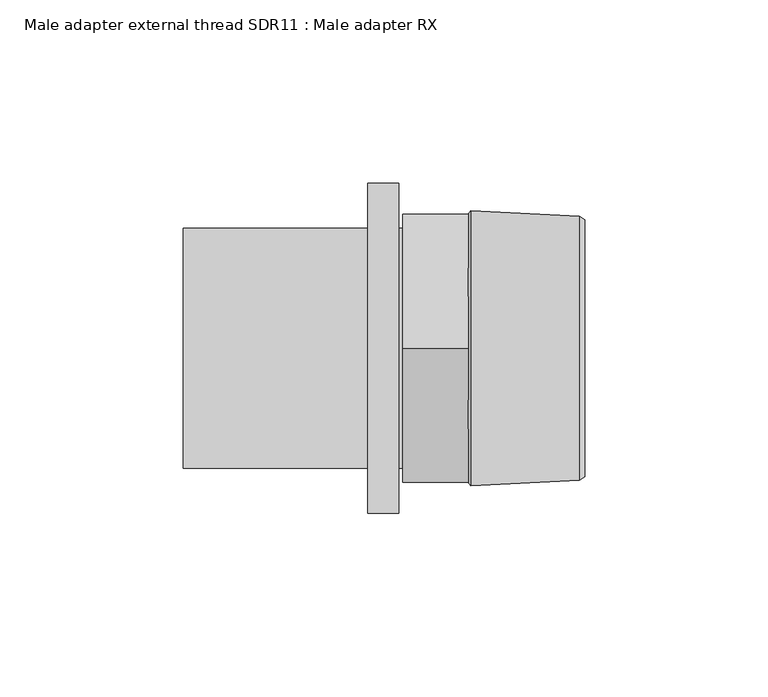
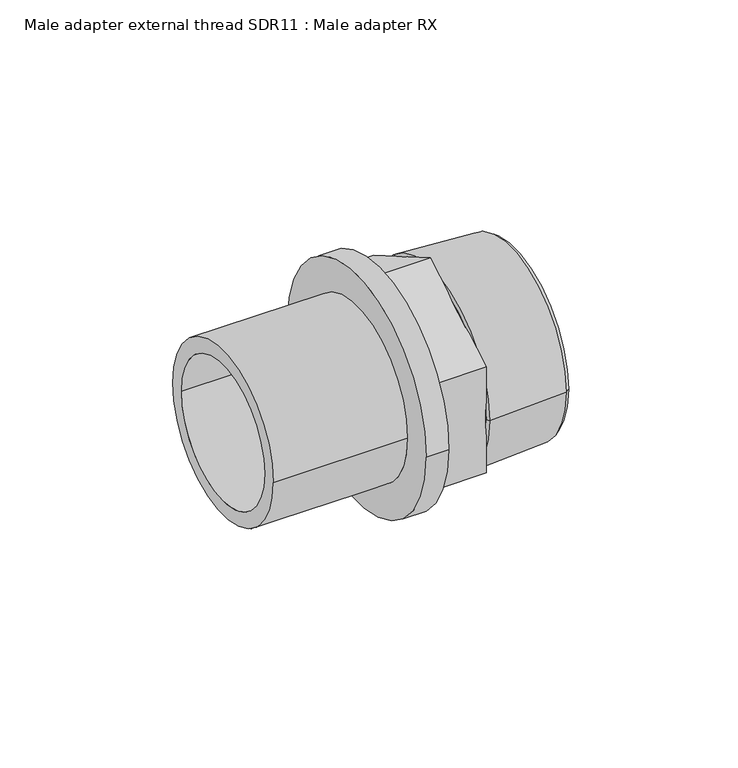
"""IFC4 building model written with IfcOpenShell, lengths in millimetres: pipe fitting geometry, Male adapter external thread SDR11 : Male adapter RX."""

import ifcopenshell
import ifcopenshell.guid

model = None  # the IFC model being written
_history = None  # IfcOwnerHistory: only IFC2X3 demands one
_inside = {}  # id of a spatial element -> (the spatial element, [elements in it])
_under = {}  # id of a project, library or spatial element -> (it, [spatial elements below it])
_declared = {}  # id of a project -> (the project, [libraries it declares])
_typed = {}  # id of a type object -> (the type object, [elements of that type])
_made_of = {}  # id of a material, layer set ... -> (it, [elements and type objects made of it])


def new_model(schema):
    """Start an empty IFC model of exactly this schema.

    Asked for "IFC4X3", IfcOpenShell would pick the latest addendum, in which some entities
    have other attributes; the version numbers below select the first issue.
    IFC2X3 requires an IfcOwnerHistory on every rooted entity: one is made here for all.
    """
    global model, _history
    if schema == "IFC4X3":
        model = ifcopenshell.file(schema_version=(4, 3, 0, 0))
    else:
        model = ifcopenshell.file(schema=schema)
    _inside.clear()
    _under.clear()
    _declared.clear()
    _typed.clear()
    _made_of.clear()
    _history = None
    if model.schema == "IFC2X3":
        org = make("IfcOrganization", Name="unknown")
        user = make(
            "IfcPersonAndOrganization",
            ThePerson=make("IfcPerson", FamilyName="unknown"),
            TheOrganization=org,
        )
        app = make(
            "IfcApplication",
            ApplicationDeveloper=org,
            Version="unknown",
            ApplicationFullName="unknown",
            ApplicationIdentifier="unknown",
        )
        _history = make(
            "IfcOwnerHistory",
            OwningUser=user,
            OwningApplication=app,
            ChangeAction="ADDED",
            CreationDate=0,
        )
    return model


def make(cls, **values):
    """One entity of the class cls with the attributes given. An attribute that is None is left unset."""
    return model.create_entity(
        cls, **{name: value for name, value in values.items() if value is not None}
    )


def rooted(cls, **values):
    """An entity with a GlobalId (a new one), such as an element, a storey or a relation."""
    return make(cls, GlobalId=ifcopenshell.guid.new(), OwnerHistory=_history, **values)


def si_unit(unit_type, name, prefix=None):
    """IfcSIUnit, for example si_unit("LENGTHUNIT", "METRE", prefix="MILLI")."""
    return make("IfcSIUnit", UnitType=unit_type, Prefix=prefix, Name=name)


def assignment(units):
    """IfcUnitAssignment: the units of a project."""
    return None if units is None else make("IfcUnitAssignment", Units=units)


def point(xyz):
    """IfcCartesianPoint."""
    return None if xyz is None else make("IfcCartesianPoint", Coordinates=xyz)


def direction(xyz):
    """IfcDirection."""
    return None if xyz is None else make("IfcDirection", DirectionRatios=xyz)


def frame(location, z_axis=None, x_axis=None):
    """IfcAxis2Placement3D, a coordinate frame: its origin and axes. An axis left out is left unset."""
    return make(
        "IfcAxis2Placement3D",
        Location=point(location),
        Axis=direction(z_axis),
        RefDirection=direction(x_axis),
    )


def origin():
    """The frame at (0, 0, 0) with its axes left unset."""
    return frame((0.0, 0.0, 0.0))


def place(relative_to, where):
    """IfcLocalPlacement: puts the frame where relative to a parent placement (None: the world)."""
    return make(
        "IfcLocalPlacement", PlacementRelTo=relative_to, RelativePlacement=where
    )


def context(
    kind, dimensions, precision=None, world=None, true_north=None, identifier=None
):
    """IfcGeometricRepresentationContext, for example the 3D "Model" context."""
    return make(
        "IfcGeometricRepresentationContext",
        ContextIdentifier=identifier,
        ContextType=kind,
        CoordinateSpaceDimension=dimensions,
        Precision=precision,
        WorldCoordinateSystem=world,
        TrueNorth=true_north,
    )


def project(units=None, contexts=None):
    """IfcProject with its units and contexts."""
    return rooted(
        "IfcProject",
        Name="project",
        RepresentationContexts=contexts,
        UnitsInContext=assignment(units),
    )


def spatial(cls, under=None, at=None, **own):
    """A site, building, storey or space (cls), placed at a placement, below another one or the project."""
    s = rooted(cls, ObjectPlacement=at, **own)
    if under is not None:
        _under.setdefault(under.id(), (under, []))[1].append(s)
    return s


def polyline(points):
    """IfcPolyline through the points."""
    return make("IfcPolyline", Points=[point(p) for p in points])


def circle_curve(where, radius):
    """IfcCircle in the frame where."""
    return make("IfcCircle", Position=where, Radius=radius)


def outline(outer, holes=None, kind="AREA"):
    """IfcArbitraryClosedProfileDef: a profile drawn as a closed curve; with holes, ...WithVoids."""
    if holes is None:
        return make("IfcArbitraryClosedProfileDef", ProfileType=kind, OuterCurve=outer)
    return make(
        "IfcArbitraryProfileDefWithVoids",
        ProfileType=kind,
        OuterCurve=outer,
        InnerCurves=holes,
    )


def extrude(swept, where, along, depth):
    """IfcExtrudedAreaSolid: the profile swept, set in the frame where, extruded along a direction by depth."""
    return make(
        "IfcExtrudedAreaSolid",
        SweptArea=swept,
        Position=where,
        ExtrudedDirection=direction(along),
        Depth=depth,
    )


def shape(context_of_items, identifier, shape_type, items):
    """IfcShapeRepresentation: the items that make up one representation, for example the "Body"."""
    return make(
        "IfcShapeRepresentation",
        ContextOfItems=context_of_items,
        RepresentationIdentifier=identifier,
        RepresentationType=shape_type,
        Items=items,
    )


def source(mapping_origin, context_of_items, identifier, shape_type, items):
    """IfcRepresentationMap: a shape defined once, which mapped items show again and again."""
    return make(
        "IfcRepresentationMap",
        MappingOrigin=mapping_origin,
        MappedRepresentation=shape(context_of_items, identifier, shape_type, items),
    )


def transform(
    local_origin,
    x_axis=None,
    y_axis=None,
    z_axis=None,
    scale=None,
    scale2=None,
    scale3=None,
    uniform=True,
):
    """IfcCartesianTransformationOperator3D, or its non-uniform kind. x_axis, y_axis, z_axis: its Axis1, 2, 3."""
    if uniform:
        return make(
            "IfcCartesianTransformationOperator3D",
            Axis1=direction(x_axis),
            Axis2=direction(y_axis),
            LocalOrigin=point(local_origin),
            Scale=scale,
            Axis3=direction(z_axis),
        )
    return make(
        "IfcCartesianTransformationOperator3DnonUniform",
        Axis1=direction(x_axis),
        Axis2=direction(y_axis),
        LocalOrigin=point(local_origin),
        Scale=scale,
        Axis3=direction(z_axis),
        Scale2=scale2,
        Scale3=scale3,
    )


def mapped(mapping_source, mapping_target):
    """IfcMappedItem: shows the shape of a source again, moved by a transform."""
    return make(
        "IfcMappedItem", MappingSource=mapping_source, MappingTarget=mapping_target
    )


def made_of(thing, what):
    """Note that an element or type object is made of a material, layer set ...; save() writes the relation."""
    if what is not None:
        _made_of.setdefault(what.id(), (what, []))[1].append(thing)
    return thing


def element(
    cls,
    number,
    at=None,
    inside=None,
    cuts=None,
    type_object=None,
    material=None,
    context=None,
    identifier="Body",
    shape_type=None,
    held_by="IfcProductDefinitionShape",
    body=None,
    shapes=None,
    **own,
):
    """One element of the class cls, such as IfcWall. Its Tag is "e" and its number.

    at: its placement. inside: the storey or other place that contains it. cuts: it is an
    opening in that element (IfcRelVoidsElement). A single representation is given by context,
    identifier, shape_type and body (its items); several are given by shapes. held_by: the class
    of the entity that holds the representations. save() writes the other relations.
    """
    e = rooted(cls, Tag="e%d" % number, ObjectPlacement=at, **own)
    if body is not None:
        shapes = [shape(context, identifier, shape_type, body)]
    if shapes is not None:
        e.Representation = make(held_by, Representations=shapes)
    if inside is not None:
        _inside.setdefault(inside.id(), (inside, []))[1].append(e)
    if cuts is not None:
        rooted(
            "IfcRelVoidsElement", RelatingBuildingElement=cuts, RelatedOpeningElement=e
        )
    if type_object is not None:
        _typed.setdefault(type_object.id(), (type_object, []))[1].append(e)
    return made_of(e, material)


def aggregate(whole, parts):
    """IfcRelAggregates: a whole, such as a stair, and the parts it consists of."""
    return rooted("IfcRelAggregates", RelatingObject=whole, RelatedObjects=parts)


def save(model, path):
    """Write the relations noted so far, then the file.

    IfcRelAggregates (storeys below a building ...), IfcRelContainedInSpatialStructure (elements
    in a storey), IfcRelDefinesByType, IfcRelAssociatesMaterial and IfcRelDeclares: one each for
    every whole, place, type object, material and project.
    """
    for whole, parts in _under.values():
        aggregate(whole, parts)
    for where, things in _inside.values():
        rooted(
            "IfcRelContainedInSpatialStructure",
            RelatedElements=things,
            RelatingStructure=where,
        )
    for kind, things in _typed.values():
        rooted("IfcRelDefinesByType", RelatedObjects=things, RelatingType=kind)
    for what, things in _made_of.values():
        rooted("IfcRelAssociatesMaterial", RelatedObjects=things, RelatingMaterial=what)
    for by, libraries in _declared.values():
        rooted("IfcRelDeclares", RelatingContext=by, RelatedDefinitions=libraries)
    model.write(path)


def plane_surface(at):
    """IfcPlane: the flat surface through the origin of the frame at, square to its z axis."""
    return make("IfcPlane", Position=at)


def cylinder_surface(at, radius):
    """IfcCylindricalSurface: all points at the distance radius from the z axis of the frame at."""
    return make("IfcCylindricalSurface", Position=at, Radius=radius)


def revolved_surface(curve, axis_point, axis_direction):
    """IfcSurfaceOfRevolution: the curve turned about the line through axis_point along axis_direction."""
    return make(
        "IfcSurfaceOfRevolution",
        SweptCurve=make("IfcArbitraryOpenProfileDef", ProfileType="CURVE", Curve=curve),
        AxisPosition=make("IfcAxis1Placement", Location=point(axis_point), Axis=direction(axis_direction)),
    )


def advanced_brep(points, edges, surfaces, faces):
    """IfcAdvancedBrep: a solid bounded by faces that lie on surfaces and meet in shared edges.

    An edge is (start, end): straight between two places in points (the first is 0);
    or (start, end, curve); or (start, end, curve, False) where it runs against its curve.
    A face is (place in surfaces, loops), or (place, loops, False) where it looks against
    its surface's normal. A loop lists edges by number (the first is 1), with a minus sign
    where the edge is run from its end to its start. The first loop is the outer one.
    """
    corners = [point(p) for p in points]
    vertices = [make("IfcVertexPoint", VertexGeometry=c) for c in corners]
    made = []
    for start, end, *more in edges:
        made.append(
            make(
                "IfcEdgeCurve",
                EdgeStart=vertices[start],
                EdgeEnd=vertices[end],
                EdgeGeometry=more[0] if more else make("IfcPolyline", Points=[corners[start], corners[end]]),
                SameSense=more[1] if len(more) > 1 else True,
            )
        )
    hull = []
    for where, loops, *sense in faces:
        bounds = []
        for j, loop in enumerate(loops):
            ring = [make("IfcOrientedEdge", EdgeElement=made[abs(k) - 1], Orientation=k > 0) for k in loop]
            bounds.append(
                make(
                    "IfcFaceOuterBound" if j == 0 else "IfcFaceBound",
                    Bound=make("IfcEdgeLoop", EdgeList=ring),
                    Orientation=True,
                )
            )
        hull.append(make("IfcAdvancedFace", Bounds=bounds, FaceSurface=surfaces[where], SameSense=sense[0] if sense else True))
    return make("IfcAdvancedBrep", Outer=make("IfcClosedShell", CfsFaces=hull))


def male_adapter_external_thread_sdr11_male_adapter_rx_4136f3fd(model_context):
    return source(origin(), model_context, "Body", "SolidModel", [
        advanced_brep(
        [(-9.5, 32.7, 0.0), (-9.5, -32.7, 0.0), (-59.8, -32.7, 0.0), (-59.8, 32.7, 0.0), (-1.0, 45.0, 0.0), (-1.0, -45.0, 0.0), (-9.5, -45.0, 0.0), (-9.5, 45.0, 0.0), (0.0, 32.7, 0.0), (0.0, -32.7, 0.0), (-1.0, -32.7, 0.0), (-1.0, 32.7, 0.0), (-59.8, 27.0, 0.0), (-59.8, -27.0, 0.0), (0.0, -27.0, 0.0), (0.0, 27.0, 0.0)],
        [
            (0, 1, circle_curve(frame((-9.5, 0.0, 0.0), z_axis=(-1.0, 0.0, 0.0), x_axis=(0.0, -1.0, 0.0)), 32.7)),
            (1, 2),
            (2, 3, circle_curve(frame((-59.8, 0.0, 0.0), z_axis=(1.0, 0.0, 0.0), x_axis=(0.0, -1.0, 0.0)), 32.7)),
            (3, 0),
            (4, 5, circle_curve(frame((-1.0, 0.0, 0.0), z_axis=(-1.0, 0.0, 0.0), x_axis=(0.0, -1.0, 0.0)), 45.0)),
            (5, 6),
            (6, 7, circle_curve(frame((-9.5, 0.0, 0.0), z_axis=(1.0, 0.0, 0.0), x_axis=(0.0, -1.0, 0.0)), 45.0)),
            (7, 4),
            (8, 9, circle_curve(frame((0.0, 0.0, 0.0), z_axis=(-1.0, 0.0, 0.0), x_axis=(0.0, -1.0, 0.0)), 32.7)),
            (9, 10),
            (10, 11, circle_curve(frame((-1.0, 0.0, 0.0), z_axis=(1.0, 0.0, 0.0), x_axis=(0.0, -1.0, 0.0)), 32.7)),
            (11, 8),
            (12, 13, circle_curve(frame((-59.8, 0.0, 0.0), z_axis=(-1.0, 0.0, 0.0), x_axis=(0.0, -1.0, 0.0)), 27.0)),
            (13, 14),
            (14, 15, circle_curve(frame((0.0, 0.0, 0.0), z_axis=(1.0, 0.0, 0.0), x_axis=(0.0, -1.0, 0.0)), 27.0)),
            (15, 12),
            (2, 3, circle_curve(frame((-59.8, 0.0, 0.0), z_axis=(-1.0, 0.0, 0.0), x_axis=(0.0, 1.0, 0.0)), 32.7)),
            (12, 13, circle_curve(frame((-59.8, 0.0, 0.0), z_axis=(1.0, 0.0, 0.0), x_axis=(0.0, 1.0, 0.0)), 27.0)),
            (1, 0, circle_curve(frame((-9.5, 0.0, 0.0), z_axis=(-1.0, 0.0, 0.0), x_axis=(0.0, 1.0, 0.0)), 32.7)),
            (6, 7, circle_curve(frame((-9.5, 0.0, 0.0), z_axis=(-1.0, 0.0, 0.0), x_axis=(0.0, 1.0, 0.0)), 45.0)),
            (5, 4, circle_curve(frame((-1.0, 0.0, 0.0), z_axis=(-1.0, 0.0, 0.0), x_axis=(0.0, 1.0, 0.0)), 45.0)),
            (10, 11, circle_curve(frame((-1.0, 0.0, 0.0), z_axis=(-1.0, 0.0, 0.0), x_axis=(0.0, 1.0, 0.0)), 32.7)),
            (9, 8, circle_curve(frame((0.0, 0.0, 0.0), z_axis=(-1.0, 0.0, 0.0), x_axis=(0.0, 1.0, 0.0)), 32.7)),
            (14, 15, circle_curve(frame((0.0, 0.0, 0.0), z_axis=(-1.0, 0.0, 0.0), x_axis=(0.0, 1.0, 0.0)), 27.0)),
        ],
        [
            cylinder_surface(frame((0.0, 0.0, 0.0), z_axis=(1.0, 0.0, 0.0), x_axis=(0.0, -1.0, 0.0)), 32.7),
            cylinder_surface(frame((0.0, 0.0, 0.0), z_axis=(1.0, 0.0, 0.0), x_axis=(0.0, -1.0, 0.0)), 45.0),
            revolved_surface(polyline([(0.0, -27.0, 0.0), (-59.8, -27.0, 0.0)]), (0.0, 0.0, 0.0), (1.0, 0.0, 0.0)),
            plane_surface(frame((-59.8, 0.0, 0.0), z_axis=(-1.0, 0.0, 0.0), x_axis=(0.0, 1.0, 0.0))),
            cylinder_surface(frame((0.0, 0.0, 0.0), z_axis=(1.0, 0.0, 0.0), x_axis=(0.0, 1.0, 0.0)), 32.7),
            plane_surface(frame((-9.5, 0.0, 0.0), z_axis=(-1.0, 0.0, 0.0), x_axis=(0.0, 1.0, 0.0))),
            cylinder_surface(frame((0.0, 0.0, 0.0), z_axis=(1.0, 0.0, 0.0), x_axis=(0.0, 1.0, 0.0)), 45.0),
            plane_surface(frame((-1.0, 0.0, 0.0), z_axis=(1.0, 0.0, 0.0), x_axis=(0.0, 1.0, 0.0))),
            plane_surface(frame((0.0, 0.0, 0.0), z_axis=(1.0, 0.0, 0.0), x_axis=(0.0, 1.0, 0.0))),
            revolved_surface(polyline([(0.0, 27.0, 0.0), (-59.8, 27.0, 0.0)]), (0.0, 0.0, 0.0), (1.0, 0.0, 0.0)),
        ],
        [
            (0, [[1, 2, 3, 4]]),
            (1, [[5, 6, 7, 8]]),
            (0, [[9, 10, 11, 12]]),
            (2, [[13, 14, 15, 16]]),
            (3, [[17, -3], [18, -13]]),
            (4, [[19, -4, -17, -2]]),
            (5, [[20, -7], [-19, -1]]),
            (6, [[21, -8, -20, -6]]),
            (7, [[-21, -5], [22, -11]]),
            (4, [[23, -12, -22, -10]]),
            (8, [[-23, -9], [24, -15]]),
            (9, [[-18, -16, -24, -14]]),
        ],
    ),
        advanced_brep(
        [(19.0032803, 32.5, 0.0), (19.0032803, -32.5, 0.0), (49.7, -32.5, 0.0), (49.7, 32.5, 0.0), (17.9, 31.3967197, 0.0), (17.9, -31.3967197, 0.0), (18.6406902, 37.5, 0.0), (18.6406902, -37.5, 0.0), (17.9, -36.5, 0.0), (17.9, 36.5, 0.0), (48.2000007, 36.0, 0.0), (48.2000007, -36.0, 0.0), (49.7, 35.0, 0.0), (49.7, -35.0, 0.0)],
        [
            (0, 1, circle_curve(frame((19.0032803, 0.0, 0.0), z_axis=(-1.0, 0.0, 0.0), x_axis=(0.0, -1.0, 0.0)), 32.5)),
            (1, 2),
            (2, 3, circle_curve(frame((49.7, 0.0, 0.0), z_axis=(1.0, 0.0, 0.0), x_axis=(0.0, -1.0, 0.0)), 32.5)),
            (3, 0),
            (4, 5, circle_curve(frame((17.9, 0.0, 0.0), z_axis=(-1.0, 0.0, 0.0), x_axis=(0.0, -1.0, 0.0)), 31.3967197)),
            (5, 1),
            (0, 4),
            (6, 7, circle_curve(frame((18.6406902, 0.0, 0.0), z_axis=(-1.0, 0.0, 0.0), x_axis=(0.0, -1.0, 0.0)), 37.5)),
            (7, 8),
            (8, 9, circle_curve(frame((17.9, 0.0, 0.0), z_axis=(1.0, 0.0, 0.0), x_axis=(0.0, -1.0, 0.0)), 36.5)),
            (9, 6),
            (10, 11, circle_curve(frame((48.2000007, 0.0, 0.0), z_axis=(-1.0, 0.0, 0.0), x_axis=(0.0, -1.0, 0.0)), 36.0)),
            (11, 7),
            (6, 10),
            (12, 13, circle_curve(frame((49.7, 0.0, 0.0), z_axis=(-1.0, 0.0, 0.0), x_axis=(0.0, -1.0, 0.0)), 35.0)),
            (13, 11),
            (10, 12),
            (1, 0, circle_curve(frame((19.0032803, 0.0, 0.0), z_axis=(-1.0, 0.0, 0.0), x_axis=(0.0, 1.0, 0.0)), 32.5)),
            (3, 2, circle_curve(frame((49.7, 0.0, 0.0), z_axis=(1.0, 0.0, 0.0), x_axis=(0.0, 1.0, 0.0)), 32.5)),
            (5, 4, circle_curve(frame((17.9, 0.0, 0.0), z_axis=(-1.0, 0.0, 0.0), x_axis=(0.0, 1.0, 0.0)), 31.3967197)),
            (8, 9, circle_curve(frame((17.9, 0.0, 0.0), z_axis=(-1.0, 0.0, 0.0), x_axis=(0.0, 1.0, 0.0)), 36.5)),
            (7, 6, circle_curve(frame((18.6406902, 0.0, 0.0), z_axis=(-1.0, 0.0, 0.0), x_axis=(0.0, 1.0, 0.0)), 37.5)),
            (11, 10, circle_curve(frame((48.2000007, 0.0, 0.0), z_axis=(-1.0, 0.0, 0.0), x_axis=(0.0, 1.0, 0.0)), 36.0)),
            (13, 12, circle_curve(frame((49.7, 0.0, 0.0), z_axis=(-1.0, 0.0, 0.0), x_axis=(0.0, 1.0, 0.0)), 35.0)),
        ],
        [
            revolved_surface(polyline([(49.7, -32.5, 0.0), (19.0032803, -32.5, 0.0)]), (0.0, 0.0, 0.0), (1.0, 0.0, 0.0)),
            revolved_surface(polyline([(19.0032803, -32.5, 0.0), (17.9, -31.3967197, 0.0)]), (0.0, 0.0, 0.0), (1.0, 0.0, 0.0)),
            revolved_surface(polyline([(17.9, -36.5, 0.0), (18.6406902, -37.5, 0.0)]), (0.0, 0.0, 0.0), (1.0, 0.0, 0.0)),
            revolved_surface(polyline([(18.6406902, -37.5, 0.0), (48.2000007, -36.0, 0.0)]), (0.0, 0.0, 0.0), (1.0, 0.0, 0.0)),
            revolved_surface(polyline([(48.2000007, -36.0, 0.0), (49.7, -35.0, 0.0)]), (0.0, 0.0, 0.0), (1.0, 0.0, 0.0)),
            revolved_surface(polyline([(49.7, 32.5, 0.0), (19.0032803, 32.5, 0.0)]), (0.0, 0.0, 0.0), (1.0, 0.0, 0.0)),
            revolved_surface(polyline([(19.0032803, 32.5, 0.0), (17.9, 31.3967197, 0.0)]), (0.0, 0.0, 0.0), (1.0, 0.0, 0.0)),
            plane_surface(frame((17.9, 0.0, 0.0), z_axis=(-1.0, 0.0, 0.0), x_axis=(0.0, 1.0, 0.0))),
            revolved_surface(polyline([(17.9, 36.5, 0.0), (18.6406902, 37.5, 0.0)]), (0.0, 0.0, 0.0), (1.0, 0.0, 0.0)),
            revolved_surface(polyline([(18.6406902, 37.5, 0.0), (48.2000007, 36.0, 0.0)]), (0.0, 0.0, 0.0), (1.0, 0.0, 0.0)),
            revolved_surface(polyline([(48.2000007, 36.0, 0.0), (49.7, 35.0, 0.0)]), (0.0, 0.0, 0.0), (1.0, 0.0, 0.0)),
            plane_surface(frame((49.7, 0.0, 0.0), z_axis=(1.0, 0.0, 0.0), x_axis=(0.0, 1.0, 0.0))),
        ],
        [
            (0, [[1, 2, 3, 4]]),
            (1, [[5, 6, -1, 7]]),
            (2, [[8, 9, 10, 11]]),
            (3, [[12, 13, -8, 14]]),
            (4, [[15, 16, -12, 17]]),
            (5, [[18, -4, 19, -2]]),
            (6, [[20, -7, -18, -6]]),
            (7, [[21, -10], [-20, -5]]),
            (8, [[22, -11, -21, -9]]),
            (9, [[23, -14, -22, -13]]),
            (10, [[24, -17, -23, -16]]),
            (11, [[-24, -15], [-19, -3]]),
        ],
    ),
        extrude(outline(polyline([(-36.5, 21.0732848), (0.0, 42.1465697), (36.5, 21.0732848), (36.5, -21.0732848), (0.0, -42.1465697), (-36.5, -21.0732848), (-36.5, 21.0732848)])), frame((0.0, 0.0, 0.0), z_axis=(1.0, 0.0, 0.0), x_axis=(0.0, 1.0, 0.0)), (0.0, 0.0, 1.0), 17.9),
    ])


if __name__ == "__main__":
    model = new_model("IFC4")
    model_context = context("Model", 3, world=origin())
    ifc_project = project(units=[si_unit("LENGTHUNIT", "METRE", prefix="MILLI")], contexts=[model_context])
    site = spatial("IfcSite", under=ifc_project)
    building = spatial("IfcBuilding", under=site)
    placement = place(None, origin())
    male_adapter_external_thread_sdr11_male_adapter_rx_shape = male_adapter_external_thread_sdr11_male_adapter_rx_4136f3fd(model_context)
    element("IfcPipeFitting", 1, ObjectType="Male adapter external thread SDR11 : Male adapter RX", at=placement, inside=building, context=model_context, shape_type="MappedRepresentation", body=[
        mapped(male_adapter_external_thread_sdr11_male_adapter_rx_shape, transform((0.0, 0.0, 0.0), x_axis=(1.0, 0.0, 0.0), y_axis=(0.0, 1.0, 0.0), z_axis=(0.0, 0.0, 1.0))),
    ])
    save(model, "model.ifc")
